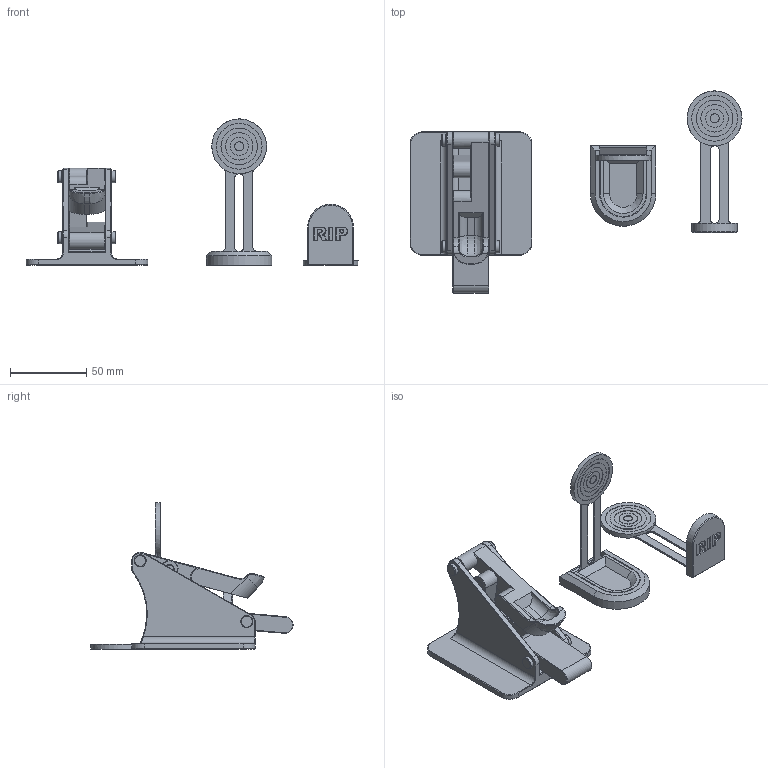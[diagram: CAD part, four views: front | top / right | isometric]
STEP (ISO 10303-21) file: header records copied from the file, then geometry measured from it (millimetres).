
FILE_DESCRIPTION(/* description */ (''),/* implementation_level */ '2;1');
FILE_NAME(/* name */ '',/* time_stamp */ '',/* author */ (''),/* organization */ (''),/* preprocessor_version */ 'ST-DEVELOPER v20',/* originating_system */ 'Autodesk Translation Framework v12.14.0.127',/* authorisation */ '');
FILE_SCHEMA (('AUTOMOTIVE_DESIGN { 1 0 10303 214 3 1 1 }'));
Length unit declared in the file: millimetre
Products named in the file (1): Pumpkin Launcher
Bounding box: 218 x 132.78 x 96 mm (x, y, z)
Volume: 114921.1 mm3; surface area: 63349.3 mm2
Topology: 13 solids, 13 shells, 508 faces, 1218 edges, 756 vertices
Faces by surface type: plane 225, cone 101, cylinder 100, bspline 74, torus 8
Full cylindrical faces by diameter (mm): 2 x4, 4.6 x4, 5 x10, 6 x2, 8 x4, 12 x2, 18 x2, 24 x2, 30 x2, 36 x2
Entity records: 16795 total; most frequent: CARTESIAN_POINT 5380, ORIENTED_EDGE 2432, DIRECTION 2172, EDGE_CURVE 1216, AXIS2_PLACEMENT_3D 759, VERTEX_POINT 756, LINE 654, VECTOR 654
